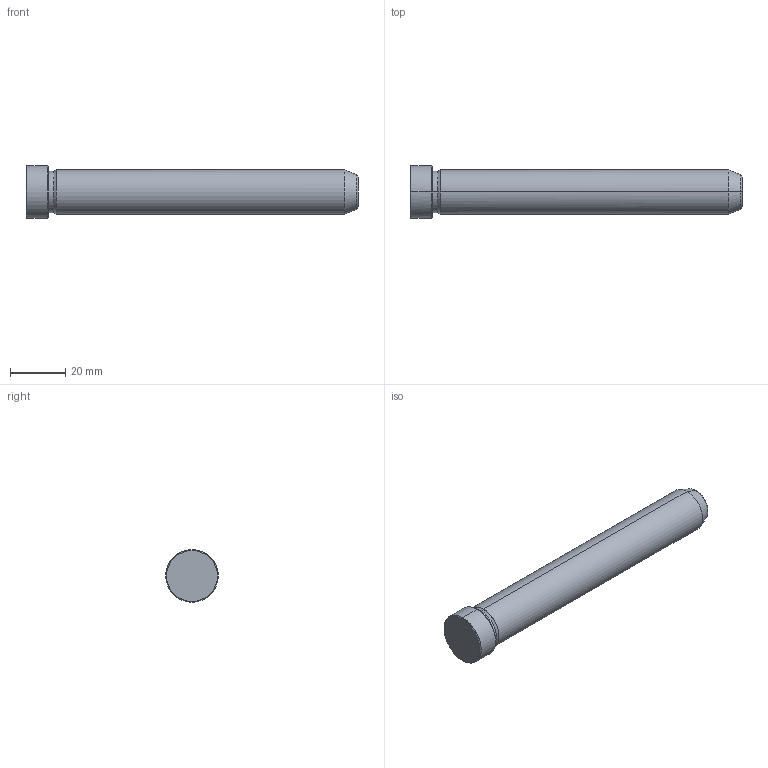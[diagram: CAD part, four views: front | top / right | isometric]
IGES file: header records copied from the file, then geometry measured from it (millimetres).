
Start section: START RECORD GO HERE.
Global section: file name: 549-16X120.igs; native system: DASSAULT SYSTEMES CATIA V5 R20 - www.3ds.com; preprocessor: CATIA Version 5 Release 20 ; author: Utente; organization: NB04-ASUS; date: 20211211.103312; units: millimetre
Bounding box: 120 x 19 x 19 mm (x, y, z)
Surface area: 6566.8 mm2 (no closed solid volume)
Topology: 0 solids, 0 shells, 19 faces, 112 edges, 112 vertices
Faces by surface type: revolution 16, plane 3
